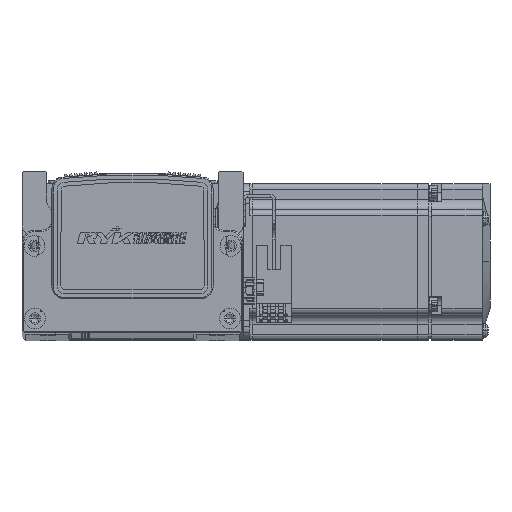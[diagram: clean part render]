
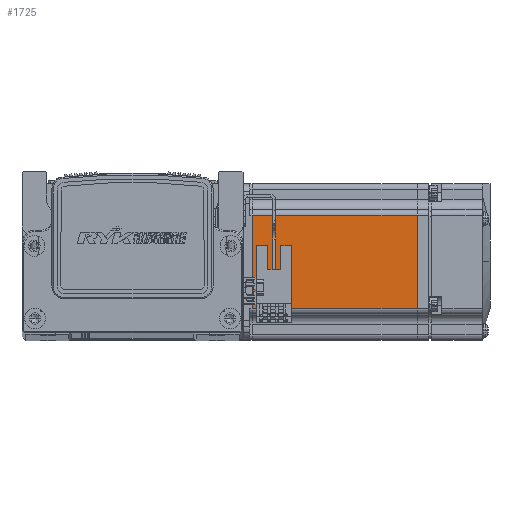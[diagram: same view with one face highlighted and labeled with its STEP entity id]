
A CAD part, top view. The second image highlights one B-rep face of the part: STEP entity #1725.
In plain terms, the highlighted planar face has unit normal (0, 0, 1) as drawn and (0, 0, -1) by its records, which use the part's own axes.
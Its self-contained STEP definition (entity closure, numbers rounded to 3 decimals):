
#1725 = ADVANCED_FACE ( 'NONE', ( #40515 ), #68705, .T. ) ;
#2834 = AXIS2_PLACEMENT_3D ( 'NONE', #68734, #68778, #68768 ) ;
#12472 = DIRECTION ( 'NONE',  ( 0., 1., 0. ) ) ;
#12500 = CARTESIAN_POINT ( 'NONE',  ( -70.95, 25., -30. ) ) ;
#12550 = CARTESIAN_POINT ( 'NONE',  ( -6.5, -18., -30. ) ) ;
#12557 = DIRECTION ( 'NONE',  ( -1., 0., 0. ) ) ;
#12588 = DIRECTION ( 'NONE',  ( 1., 0., 0. ) ) ;
#12601 = CARTESIAN_POINT ( 'NONE',  ( -7.75, 25., -30. ) ) ;
#12616 = CARTESIAN_POINT ( 'NONE',  ( -6.5, 18., -30. ) ) ;
#12624 = DIRECTION ( 'NONE',  ( 0., -1., 0. ) ) ;
#19675 = EDGE_CURVE ( 'NONE', #22358, #22340, #46607, .T. ) ;
#19717 = EDGE_CURVE ( 'NONE', #22356, #22358, #46620, .T. ) ;
#19725 = EDGE_CURVE ( 'NONE', #22399, #22356, #46621, .T. ) ;
#19728 = EDGE_CURVE ( 'NONE', #22340, #22399, #45467, .T. ) ;
#22340 = VERTEX_POINT ( 'NONE', #63968 ) ;
#22356 = VERTEX_POINT ( 'NONE', #63973 ) ;
#22358 = VERTEX_POINT ( 'NONE', #63981 ) ;
#22399 = VERTEX_POINT ( 'NONE', #63953 ) ;
#40515 = FACE_OUTER_BOUND ( 'NONE', #50538, .T. ) ;
#45467 = LINE ( 'NONE', #12616, #45555 ) ;
#45555 = VECTOR ( 'NONE', #12588, 1000. ) ;
#46607 = LINE ( 'NONE', #12500, #46608 ) ;
#46608 = VECTOR ( 'NONE', #12472, 1000. ) ;
#46620 = LINE ( 'NONE', #12550, #46659 ) ;
#46621 = LINE ( 'NONE', #12601, #46625 ) ;
#46625 = VECTOR ( 'NONE', #12624, 1000. ) ;
#46659 = VECTOR ( 'NONE', #12557, 1000. ) ;
#50538 = EDGE_LOOP ( 'NONE', ( #63150, #63096, #63121, #63199 ) ) ;
#63096 = ORIENTED_EDGE ( 'NONE', *, *, #19717, .T. ) ;
#63121 = ORIENTED_EDGE ( 'NONE', *, *, #19675, .T. ) ;
#63150 = ORIENTED_EDGE ( 'NONE', *, *, #19725, .T. ) ;
#63199 = ORIENTED_EDGE ( 'NONE', *, *, #19728, .T. ) ;
#63953 = CARTESIAN_POINT ( 'NONE',  ( -7.75, 18., -30. ) ) ;
#63968 = CARTESIAN_POINT ( 'NONE',  ( -70.95, 18., -30. ) ) ;
#63973 = CARTESIAN_POINT ( 'NONE',  ( -7.75, -18., -30. ) ) ;
#63981 = CARTESIAN_POINT ( 'NONE',  ( -70.95, -18., -30. ) ) ;
#68705 = PLANE ( 'NONE',  #2834 ) ;
#68734 = CARTESIAN_POINT ( 'NONE',  ( -6.5, 25., -30. ) ) ;
#68768 = DIRECTION ( 'NONE',  ( -1., 0., 0. ) ) ;
#68778 = DIRECTION ( 'NONE',  ( 0., 0., -1. ) ) ;
